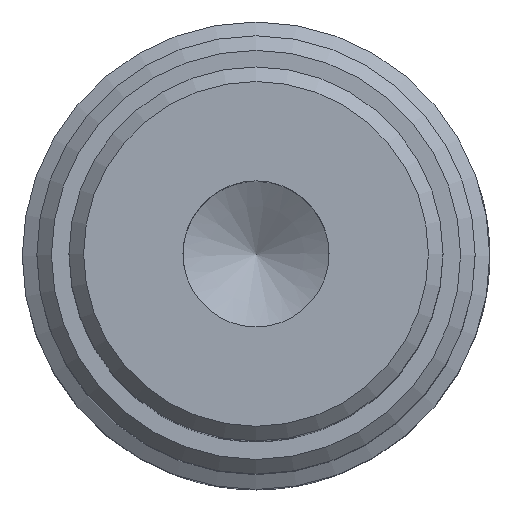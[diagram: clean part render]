
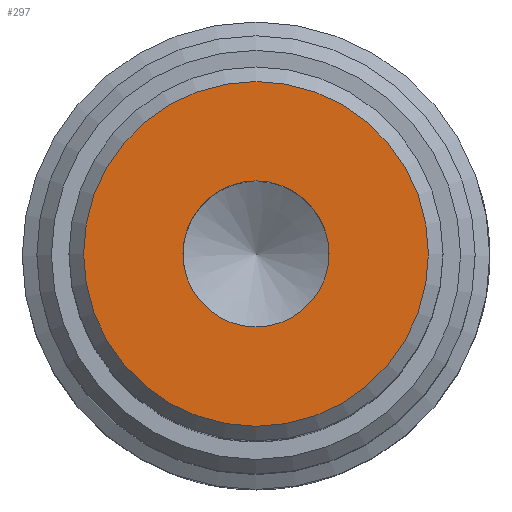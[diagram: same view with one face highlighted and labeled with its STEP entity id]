
A CAD part, top view. The second image highlights one B-rep face of the part: STEP entity #297.
In plain terms, the highlighted planar face has unit normal (0, 0, 1).
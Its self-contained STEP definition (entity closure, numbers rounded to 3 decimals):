
#297=ADVANCED_FACE('',(#620,#621),#622,.F.);
#381=EDGE_CURVE('',#771,#771,#772,.T.);
#401=EDGE_CURVE('',#799,#799,#800,.T.);
#620=FACE_BOUND('',#1074,.T.);
#621=FACE_OUTER_BOUND('',#1075,.T.);
#622=PLANE('',#1076);
#771=VERTEX_POINT('',#1356);
#772=CIRCLE('',#1357,5.9);
#799=VERTEX_POINT('',#1396);
#800=CIRCLE('',#1397,2.5);
#1074=EDGE_LOOP('',(#1680));
#1075=EDGE_LOOP('',(#1681));
#1076=AXIS2_PLACEMENT_3D('',#1682,#1683,#1684);
#1356=CARTESIAN_POINT('',(5.9,0.,0.));
#1357=AXIS2_PLACEMENT_3D('',#1868,#1869,#1870);
#1396=CARTESIAN_POINT('',(-2.5,0.0,0.));
#1397=AXIS2_PLACEMENT_3D('',#1894,#1895,#1896);
#1680=ORIENTED_EDGE('',*,*,#401,.T.);
#1681=ORIENTED_EDGE('',*,*,#381,.F.);
#1682=CARTESIAN_POINT('',(0.0,0.0,0.));
#1683=DIRECTION('',(0.0,0.0,-1.0));
#1684=DIRECTION('',(0.0,-1.0,0.0));
#1868=CARTESIAN_POINT('',(0.,0.,0.));
#1869=DIRECTION('',(0.,0.,-1.0));
#1870=DIRECTION('',(1.0,0.0,0.));
#1894=CARTESIAN_POINT('',(0.0,0.0,0.));
#1895=DIRECTION('',(0.0,0.0,-1.0));
#1896=DIRECTION('',(-1.0,0.0,0.0));
